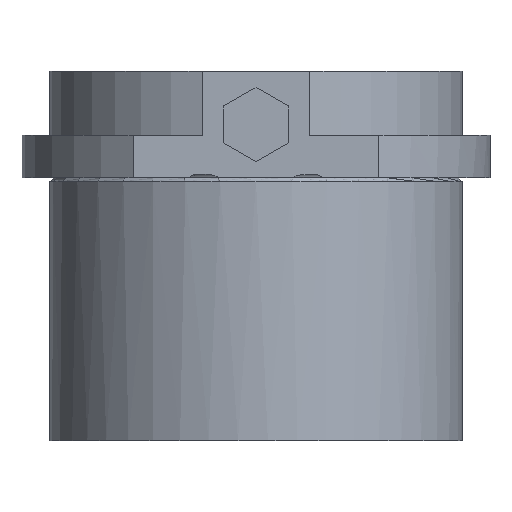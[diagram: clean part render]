
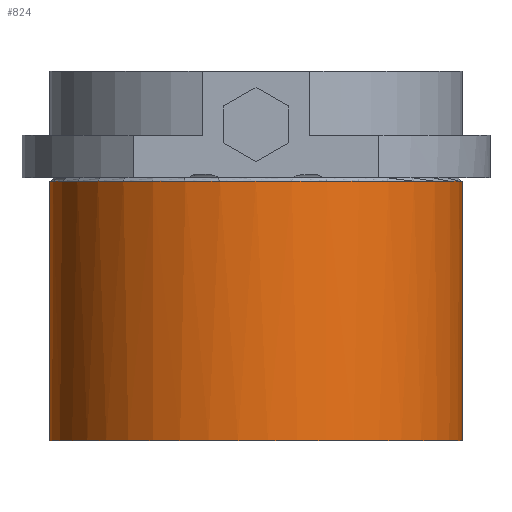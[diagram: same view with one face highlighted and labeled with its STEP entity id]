
A CAD part, front view. The second image highlights one B-rep face of the part: STEP entity #824.
In plain terms, the highlighted cylindrical face has radius 29 mm (diameter 58 mm), a partial arc.
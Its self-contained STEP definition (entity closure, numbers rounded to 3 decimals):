
#456=CARTESIAN_POINT('Control Point',(-29.,0.,-37.)) ;
#457=CARTESIAN_POINT('Control Point',(-29.,-2.638,-37.)) ;
#458=CARTESIAN_POINT('Control Point',(-28.7,-5.276,-37.)) ;
#459=CARTESIAN_POINT('Control Point',(-28.1,-7.869,-37.)) ;
#460=CARTESIAN_POINT('Control Point',(-26.321,-12.873,-37.)) ;
#461=CARTESIAN_POINT('Control Point',(-23.464,-17.349,-37.)) ;
#462=CARTESIAN_POINT('Control Point',(-21.786,-19.414,-37.)) ;
#463=CARTESIAN_POINT('Control Point',(-17.989,-23.127,-37.)) ;
#464=CARTESIAN_POINT('Control Point',(-13.456,-25.893,-37.)) ;
#465=CARTESIAN_POINT('Control Point',(-11.041,-27.012,-37.)) ;
#466=CARTESIAN_POINT('Control Point',(-6.,-28.679,-37.)) ;
#467=CARTESIAN_POINT('Control Point',(-0.712,-29.172,-37.)) ;
#468=CARTESIAN_POINT('Control Point',(1.949,-29.116,-37.)) ;
#469=CARTESIAN_POINT('Control Point',(7.21,-28.399,-37.)) ;
#470=CARTESIAN_POINT('Control Point',(12.177,-26.519,-37.)) ;
#471=CARTESIAN_POINT('Control Point',(14.542,-25.299,-37.)) ;
#472=CARTESIAN_POINT('Control Point',(18.954,-22.344,-37.)) ;
#473=CARTESIAN_POINT('Control Point',(22.589,-18.473,-37.)) ;
#474=CARTESIAN_POINT('Control Point',(24.178,-16.338,-37.)) ;
#475=CARTESIAN_POINT('Control Point',(26.719,-11.959,-37.)) ;
#476=CARTESIAN_POINT('Control Point',(28.26,-7.143,-37.)) ;
#477=CARTESIAN_POINT('Control Point',(28.753,-4.784,-37.)) ;
#478=CARTESIAN_POINT('Control Point',(29.,-2.392,-37.)) ;
#479=CARTESIAN_POINT('Control Point',(29.,0.,-37.)) ;
#480=CARTESIAN_POINT('Vertex',(-29.,0.,-37.)) ;
#482=CARTESIAN_POINT('Vertex',(29.,0.,-37.)) ;
#794=CARTESIAN_POINT('Axis2P3D Location',(0.,0.,15.)) ;
#799=CARTESIAN_POINT('Line Origine',(29.,0.,15.)) ;
#803=CARTESIAN_POINT('Vertex',(29.,0.,-0.5)) ;
#806=CARTESIAN_POINT('Axis2P3D Location',(0.,0.,-0.5)) ;
#810=CARTESIAN_POINT('Vertex',(-29.,0.,-0.5)) ;
#813=CARTESIAN_POINT('Line Origine',(-29.,0.,15.)) ;
#795=DIRECTION('Axis2P3D Direction',(0.,0.,-1.)) ;
#796=DIRECTION('Axis2P3D XDirection',(1.,0.,0.)) ;
#800=DIRECTION('Vector Direction',(0.,0.,-1.)) ;
#807=DIRECTION('Axis2P3D Direction',(0.,0.,-1.)) ;
#814=DIRECTION('Vector Direction',(0.,0.,-1.)) ;
#797=AXIS2_PLACEMENT_3D('Cylinder Axis2P3D',#794,#795,#796) ;
#808=AXIS2_PLACEMENT_3D('Circle Axis2P3D',#806,#807,$) ;
#819=ORIENTED_EDGE('',*,*,#805,.T.) ;
#820=ORIENTED_EDGE('',*,*,#812,.F.) ;
#821=ORIENTED_EDGE('',*,*,#817,.T.) ;
#822=ORIENTED_EDGE('',*,*,#484,.T.) ;
#801=VECTOR('Line Direction',#800,1.) ;
#815=VECTOR('Line Direction',#814,1.) ;
#824=ADVANCED_FACE('740-38',(#823),#798,.T.) ;
#455=B_SPLINE_CURVE_WITH_KNOTS('',5,(#456,#457,#458,#459,#460,#461,#462,#463,#464,#465,#466,#467,#468,#469,#470,#471,#472,#473,#474,#475,#476,#477,#478,#479),.UNSPECIFIED.,.F.,.U.,(6,3,3,3,3,3,3,6),(0.,18.655,37.309,55.964,74.618,93.273,111.928,128.843),.UNSPECIFIED.) ;
#809=CIRCLE('generated circle',#808,29.) ;
#798=CYLINDRICAL_SURFACE('generated cylinder',#797,29.) ;
#484=EDGE_CURVE('',#481,#483,#455,.T.) ;
#805=EDGE_CURVE('',#483,#804,#802,.F.) ;
#812=EDGE_CURVE('',#811,#804,#809,.F.) ;
#817=EDGE_CURVE('',#811,#481,#816,.T.) ;
#818=EDGE_LOOP('',(#819,#820,#821,#822)) ;
#823=FACE_OUTER_BOUND('',#818,.T.) ;
#802=LINE('Line',#799,#801) ;
#816=LINE('Line',#813,#815) ;
#481=VERTEX_POINT('',#480) ;
#483=VERTEX_POINT('',#482) ;
#804=VERTEX_POINT('',#803) ;
#811=VERTEX_POINT('',#810) ;
